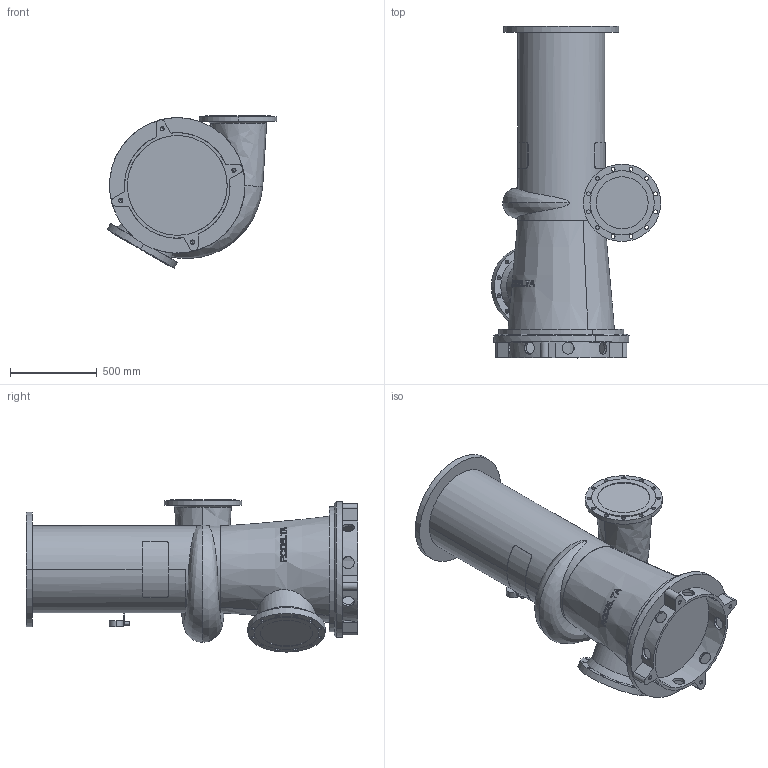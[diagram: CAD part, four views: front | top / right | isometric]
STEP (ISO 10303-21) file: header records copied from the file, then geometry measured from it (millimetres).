
FILE_DESCRIPTION((''),'2;1');
FILE_NAME('12-510_ASM','2024-08-05T',('Lyritlocal'),(''),'PRO/ENGINEER BY PARAMETRIC TECHNOLOGY CORPORATION, 2016360','PRO/ENGINEER BY PARAMETRIC TECHNOLOGY CORPORATION, 2016360','');
FILE_SCHEMA(('CONFIG_CONTROL_DESIGN'));
Length unit declared in the file: millimetre
Products named in the file (3): 12-510; 12-510_VOET; 12-510_ASM
Assembly tree (2 placements, depth 2):
  12-510_ASM
    12-510
    12-510_VOET
Bounding box: 975.69 x 1910 x 875.85 mm (x, y, z)
Volume: 485964673.1 mm3; surface area: 6451901.8 mm2
Topology: 2 solids, 6 shells, 503 faces, 1366 edges, 900 vertices
Faces by surface type: plane 323, cylinder 138, cone 36, bspline 6
Entity records: 18234 total; most frequent: CARTESIAN_POINT 5945, ORIENTED_EDGE 2700, DIRECTION 2279, EDGE_CURVE 1358, VERTEX_POINT 900, AXIS2_PLACEMENT_3D 896, EDGE_LOOP 608, FACE_OUTER_BOUND 503
